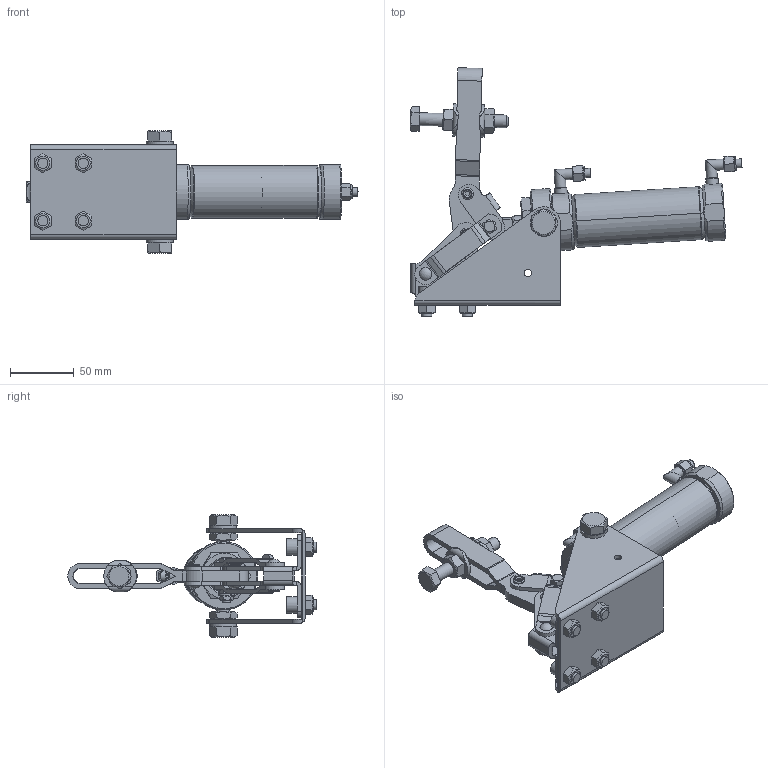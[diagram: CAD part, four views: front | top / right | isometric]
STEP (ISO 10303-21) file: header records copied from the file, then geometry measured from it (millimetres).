
FILE_DESCRIPTION(/* description */ (''),/* implementation_level */ '2;1');
FILE_NAME(/* name */ 'E:\3D作業領域\エアークランプ（スタンダード置替）\AC650V\No.AC650V(ul).stp',/* time_stamp */ '2024-04-16T09:18:44+09:00',/* author */ ('takahashi'),/* organization */ (''),/* preprocessor_version */ 'ST-DEVELOPER v18.1',/* originating_system */ 'Autodesk Inventor 2020',/* authorisation */ '');
FILE_SCHEMA (('AUTOMOTIVE_DESIGN { 1 0 10303 214 3 1 1 }'));
Length unit declared in the file: millimetre
Products named in the file (33): No.AC650V(ul); AC650フレーム; AC650フレーム_1; コンタルナットM12; AC650シリンダー支持ボルト; AC650SW; HV650ベース1（リベットアセンブリ済）; HV650ベース1; リベット6×15（ナベ平中空）; HV650アームa; HV650リンク1（リベットアセンブリ済）; HV650リンク1; リベット6×14.8（ナベ平中空）; AC650レバー; AC650レバー_1; リベット6×21（ナベ平中空）; AC650シリンダー連結ボルト; M6SW; コンタルナットM6; AC650Sシリンダー(CMK2-00-40-62-T0H-D
-V); CMK2-00-40-62-T0H-D-V_6; AC650S取付金具リング; 100SAC650S取付金具ヘッドボルト; CMK2-00-40-62-T0H-D-V_1; ニップルL型; ニップルL型_1; 袋ナット; スリーブb; M10×70ボルト; M10丸座金; M10ナット; キャップスクリューM8; M8ナット
Assembly tree (44 placements, depth 3):
  No.AC650V(ul)
    AC650フレーム
      AC650フレーム_1
      コンタルナットM12  x2
      AC650シリンダー支持ボルト  x2
      AC650SW  x2
    HV650ベース1（リベットアセンブリ済）
      HV650ベース1
      リベット6×15（ナベ平中空）
    HV650アームa
    HV650リンク1（リベットアセンブリ済）
      HV650リンク1
      リベット6×14.8（ナベ平中空）
    AC650レバー
      AC650レバー_1
      リベット6×21（ナベ平中空）
      AC650シリンダー連結ボルト
      M6SW
      コンタルナットM6  x2
    AC650Sシリンダー(CMK2-00-40-62-T0H-D
-V)
      CMK2-00-40-62-T0H-D-V_6
      AC650S取付金具リング
      100SAC650S取付金具ヘッドボルト
    CMK2-00-40-62-T0H-D-V_1
    ニップルL型  x2
      ニップルL型_1
      袋ナット
      スリーブb
    M10×70ボルト
    M10丸座金
    M10ナット  x2
    キャップスクリューM8  x4
    M8ナット  x4
Bounding box: 260.67 x 195.01 x 96 mm (x, y, z)
Volume: 327934.8 mm3; surface area: 174155.6 mm2
Topology: 42 solids, 42 shells, 648 faces, 1550 edges, 1030 vertices
Faces by surface type: plane 359, cylinder 207, cone 73, torus 6, sphere 3
Full cylindrical faces by diameter (mm): 3 x2, 4 x5, 4.5 x4, 5.9 x3, 5.98 x3, 6 x17, 6.1 x1, 6.5 x3, 7 x2, 7.3 x2, 8 x8, 8.2 x2, 8.3 x4, 8.4 x4, 8.5 x4, 9.2 x3, 9.5 x1, 9.7 x2, 10 x7, 10.3 x2, 10.4 x4, 11 x2, 12 x5, 12.1 x2, 12.5 x2, 13 x4, 21.2 x2, 26 x1, 30 x2, 40 x1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
Entity records: 16520 total; most frequent: CARTESIAN_POINT 3405, DIRECTION 2631, ORIENTED_EDGE 2372, EDGE_CURVE 1186, AXIS2_PLACEMENT_3D 1021, VERTEX_POINT 788, EDGE_LOOP 602, LINE 589
